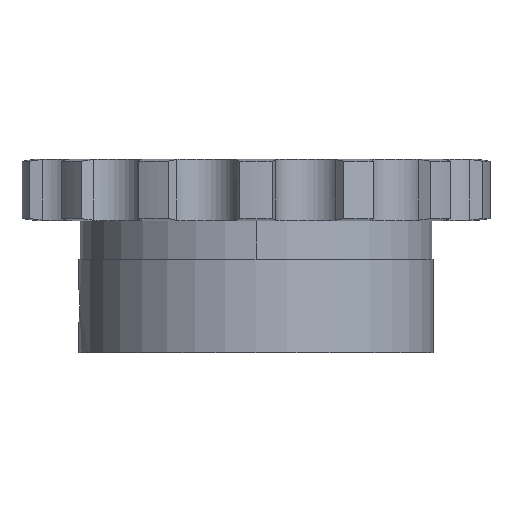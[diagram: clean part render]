
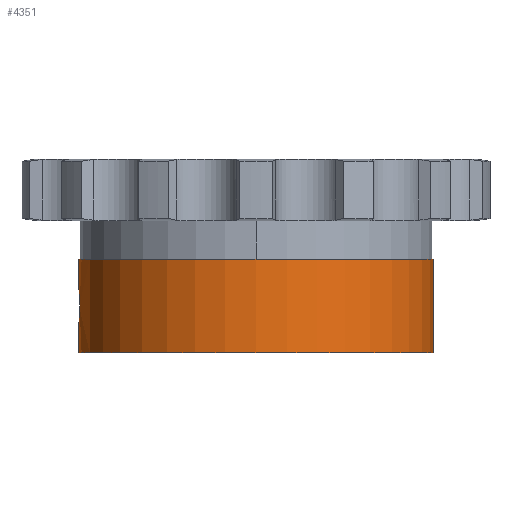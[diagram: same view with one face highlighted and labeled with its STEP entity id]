
A CAD part, front view. The second image highlights one B-rep face of the part: STEP entity #4351.
In plain terms, the highlighted cylindrical face has radius 32 mm (diameter 64 mm), a partial arc.
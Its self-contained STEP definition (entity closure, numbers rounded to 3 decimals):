
#1047=CARTESIAN_POINT('',(-32.,0.,
-18.));
#1069=DIRECTION('',(0.,0.,1.));
#1070=VECTOR('',#1069,16.9);
#1071=CARTESIAN_POINT('',(32.,0.,-29.45));
#1072=LINE('',#1071,#1070);
#1196=CARTESIAN_POINT('',(-32.,0.,
-18.));
#1197=CARTESIAN_POINT('',(-32.,-0.16,
-18.));
#1198=CARTESIAN_POINT('',(-31.998,-0.478,
-18.024));
#1199=CARTESIAN_POINT('',(-31.987,-0.956,
-18.136));
#1200=CARTESIAN_POINT('',(-31.97,-1.409,
-18.323));
#1201=CARTESIAN_POINT('',(-31.949,-1.822,
-18.575));
#1202=CARTESIAN_POINT('',(-31.926,-2.187,
-18.884));
#1203=CARTESIAN_POINT('',(-31.903,-2.498,
-19.246));
#1204=CARTESIAN_POINT('',(-31.882,-2.749,
-19.655));
#1205=CARTESIAN_POINT('',(-31.866,-2.93,
-20.094));
#1206=CARTESIAN_POINT('',(-31.856,-3.037,
-20.55));
#1207=CARTESIAN_POINT('',(-31.853,-3.06,
-20.85));
#1208=CARTESIAN_POINT('',(-31.853,-3.06,
-21.));
#1213=DIRECTION('',(0.,0.,1.));
#1214=VECTOR('',#1213,5.45);
#1215=CARTESIAN_POINT('',(-32.,0.,
-18.));
#1216=LINE('',#1215,#1214);
#1220=CARTESIAN_POINT('',(0.,0.,-12.55));
#1221=DIRECTION('',(0.,0.,1.));
#1222=DIRECTION('',(-1.,0.,0.));
#1223=AXIS2_PLACEMENT_3D('',#1220,#1221,#1222);
#1228=DIRECTION('',(0.,0.,1.));
#1229=VECTOR('',#1228,5.45);
#1230=CARTESIAN_POINT('',(-32.,0.,-29.45));
#1231=LINE('',#1230,#1229);
#1235=CARTESIAN_POINT('',(-31.853,-3.06,
-21.));
#1236=CARTESIAN_POINT('',(-31.853,-3.06,
-21.15));
#1237=CARTESIAN_POINT('',(-31.856,-3.037,
-21.449));
#1238=CARTESIAN_POINT('',(-31.866,-2.931,
-21.905));
#1239=CARTESIAN_POINT('',(-31.882,-2.75,
-22.344));
#1240=CARTESIAN_POINT('',(-31.903,-2.499,
-22.753));
#1241=CARTESIAN_POINT('',(-31.926,-2.187,
-23.115));
#1242=CARTESIAN_POINT('',(-31.949,-1.823,
-23.425));
#1243=CARTESIAN_POINT('',(-31.97,-1.41,
-23.677));
#1244=CARTESIAN_POINT('',(-31.987,-0.957,
-23.863));
#1245=CARTESIAN_POINT('',(-31.998,-0.478,
-23.976));
#1246=CARTESIAN_POINT('',(-32.,-0.16,
-24.));
#1247=CARTESIAN_POINT('',(-32.,0.,
-24.));
#1260=CARTESIAN_POINT('',(0.,0.,-29.45));
#1261=DIRECTION('',(0.,0.,-1.));
#1262=DIRECTION('',(1.,0.,0.));
#1263=AXIS2_PLACEMENT_3D('',#1260,#1261,#1262);
#2845=CARTESIAN_POINT('',(-32.,0.,-29.45));
#2846=CARTESIAN_POINT('',(32.,0.,-29.45));
#2847=VERTEX_POINT('',#2845);
#2848=VERTEX_POINT('',#2846);
#3000=VERTEX_POINT('',#1047);
#3003=VERTEX_POINT('',#1208);
#3005=VERTEX_POINT('',#1247);
#3015=CARTESIAN_POINT('',(32.,0.,-12.55));
#3016=CARTESIAN_POINT('',(-32.,0.,-12.55));
#3017=VERTEX_POINT('',#3015);
#3018=VERTEX_POINT('',#3016);
#4335=CARTESIAN_POINT('',(0.,0.,5.55));
#4336=DIRECTION('',(0.,0.,1.));
#4337=DIRECTION('',(1.,0.,0.));
#4338=AXIS2_PLACEMENT_3D('',#4335,#4336,#4337);
#4339=CYLINDRICAL_SURFACE('',#4338,32.);
#4340=ORIENTED_EDGE('',*,*,#4325,.F.);
#4341=ORIENTED_EDGE('',*,*,#3956,.T.);
#4342=ORIENTED_EDGE('',*,*,#3931,.T.);
#4343=ORIENTED_EDGE('',*,*,#3953,.F.);
#4345=ORIENTED_EDGE('',*,*,#4344,.T.);
#4346=ORIENTED_EDGE('',*,*,#3949,.T.);
#4348=ORIENTED_EDGE('',*,*,#4347,.F.);
#4349=EDGE_LOOP('',(#4340,#4341,#4342,#4343,#4345,#4346,#4348));
#4350=FACE_OUTER_BOUND('',#4349,.F.);
#4351=ADVANCED_FACE('',(#4350),#4339,.T.);
#1209=B_SPLINE_CURVE_WITH_KNOTS('',3,(#1196,#1197,#1198,#1199,#1200,#1201,#1202,
#1203,#1204,#1205,#1206,#1207,#1208),.UNSPECIFIED.,.F.,.F.,(4,1,1,1,1,1,1,1,1,1,
4),(0.,0.1,0.2,0.3,0.4,0.5,0.6,0.7,0.8,0.9,1.),
.UNSPECIFIED.);
#1224=CIRCLE('',#1223,32.);
#1248=B_SPLINE_CURVE_WITH_KNOTS('',3,(#1235,#1236,#1237,#1238,#1239,#1240,#1241,
#1242,#1243,#1244,#1245,#1246,#1247),.UNSPECIFIED.,.F.,.F.,(4,1,1,1,1,1,1,1,1,1,
4),(0.,0.1,0.2,0.3,0.4,0.5,0.6,0.7,0.8,0.9,1.),
.UNSPECIFIED.);
#1264=CIRCLE('',#1263,32.);
#3931=EDGE_CURVE('',#3018,#3017,#1224,.T.);
#3949=EDGE_CURVE('',#2847,#3005,#1231,.T.);
#3953=EDGE_CURVE('',#2848,#3017,#1072,.T.);
#3956=EDGE_CURVE('',#3000,#3018,#1216,.T.);
#4325=EDGE_CURVE('',#3000,#3003,#1209,.T.);
#4344=EDGE_CURVE('',#2848,#2847,#1264,.T.);
#4347=EDGE_CURVE('',#3003,#3005,#1248,.T.);
